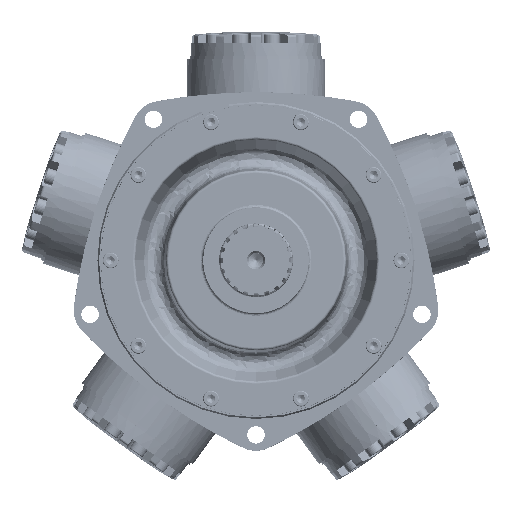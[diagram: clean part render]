
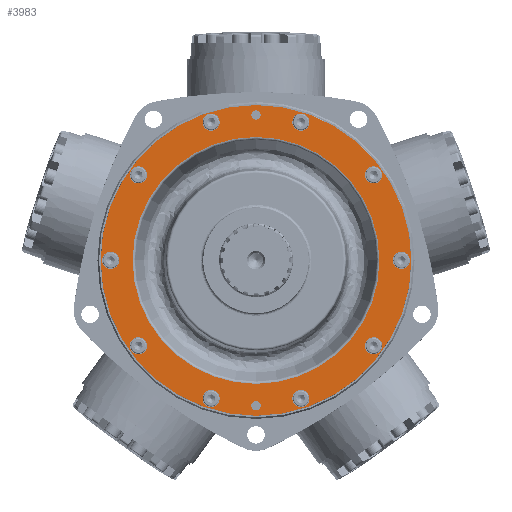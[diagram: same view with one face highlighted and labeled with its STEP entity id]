
A CAD part, top view. The second image highlights one B-rep face of the part: STEP entity #3983.
In plain terms, the highlighted planar face has unit normal (0, 0, 1).
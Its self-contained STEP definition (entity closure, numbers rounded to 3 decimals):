
#2635=CARTESIAN_POINT('',(5.664,174.625,69.152));
#2636=VERTEX_POINT('',#2635);
#2637=CARTESIAN_POINT('',(0.,174.625,69.152));
#2638=DIRECTION('',(0.0,0.0,-1.0));
#2639=DIRECTION('',(1.0,0.0,0.0));
#2640=AXIS2_PLACEMENT_3D('',#2637,#2638,#2639);
#2641=CIRCLE('',#2640,5.664);
#2642=EDGE_CURVE('',#2636,#2636,#2641,.T.);
#2684=CARTESIAN_POINT('',(5.664,-174.625,69.152));
#2685=VERTEX_POINT('',#2684);
#2686=CARTESIAN_POINT('',(0.,-174.625,69.152));
#2687=DIRECTION('',(0.0,0.0,-1.0));
#2688=DIRECTION('',(1.0,0.0,0.0));
#2689=AXIS2_PLACEMENT_3D('',#2686,#2687,#2688);
#2690=CIRCLE('',#2689,5.664);
#2691=EDGE_CURVE('',#2685,#2685,#2690,.T.);
#2742=CARTESIAN_POINT('',(57.151,-175.892,69.152));
#2743=VERTEX_POINT('',#2742);
#2744=CARTESIAN_POINT('',(53.962,-166.078,69.152));
#2745=DIRECTION('',(0.,0.,-1.));
#2746=DIRECTION('',(0.309,-0.951,0.));
#2747=AXIS2_PLACEMENT_3D('',#2744,#2745,#2746);
#2748=CIRCLE('',#2747,10.319);
#2749=EDGE_CURVE('',#2743,#2743,#2748,.T.);
#2811=CARTESIAN_POINT('',(-57.151,-175.892,69.152));
#2812=VERTEX_POINT('',#2811);
#2813=CARTESIAN_POINT('',(-53.962,-166.078,69.152));
#2814=DIRECTION('',(0.,0.,-1.));
#2815=DIRECTION('',(-0.309,-0.951,0.));
#2816=AXIS2_PLACEMENT_3D('',#2813,#2814,#2815);
#2817=CIRCLE('',#2816,10.319);
#2818=EDGE_CURVE('',#2812,#2812,#2817,.T.);
#2872=CARTESIAN_POINT('',(-149.623,-108.707,69.152));
#2873=VERTEX_POINT('',#2872);
#2874=CARTESIAN_POINT('',(-141.275,-102.642,69.152));
#2875=DIRECTION('',(0.,0.,-1.0));
#2876=DIRECTION('',(-0.809,-0.588,0.));
#2877=AXIS2_PLACEMENT_3D('',#2874,#2875,#2876);
#2878=CIRCLE('',#2877,10.319);
#2879=EDGE_CURVE('',#2873,#2873,#2878,.T.);
#2941=CARTESIAN_POINT('',(-184.944,0.,69.152));
#2942=VERTEX_POINT('',#2941);
#2943=CARTESIAN_POINT('',(-174.625,0.,69.152));
#2944=DIRECTION('',(0.0,0.0,-1.0));
#2945=DIRECTION('',(-1.0,0.0,0.0));
#2946=AXIS2_PLACEMENT_3D('',#2943,#2944,#2945);
#2947=CIRCLE('',#2946,10.319);
#2948=EDGE_CURVE('',#2942,#2942,#2947,.T.);
#3002=CARTESIAN_POINT('',(-149.623,108.707,69.152));
#3003=VERTEX_POINT('',#3002);
#3004=CARTESIAN_POINT('',(-141.275,102.642,69.152));
#3005=DIRECTION('',(0.,0.,-1.));
#3006=DIRECTION('',(-0.809,0.588,0.));
#3007=AXIS2_PLACEMENT_3D('',#3004,#3005,#3006);
#3008=CIRCLE('',#3007,10.319);
#3009=EDGE_CURVE('',#3003,#3003,#3008,.T.);
#3071=CARTESIAN_POINT('',(-57.151,175.892,69.152));
#3072=VERTEX_POINT('',#3071);
#3073=CARTESIAN_POINT('',(-53.962,166.078,69.152));
#3074=DIRECTION('',(0.,0.,-1.));
#3075=DIRECTION('',(-0.309,0.951,0.));
#3076=AXIS2_PLACEMENT_3D('',#3073,#3074,#3075);
#3077=CIRCLE('',#3076,10.319);
#3078=EDGE_CURVE('',#3072,#3072,#3077,.T.);
#3132=CARTESIAN_POINT('',(57.151,175.892,69.152));
#3133=VERTEX_POINT('',#3132);
#3134=CARTESIAN_POINT('',(53.962,166.078,69.152));
#3135=DIRECTION('',(0.,0.,-1.));
#3136=DIRECTION('',(0.309,0.951,0.));
#3137=AXIS2_PLACEMENT_3D('',#3134,#3135,#3136);
#3138=CIRCLE('',#3137,10.319);
#3139=EDGE_CURVE('',#3133,#3133,#3138,.T.);
#3201=CARTESIAN_POINT('',(149.623,108.707,69.152));
#3202=VERTEX_POINT('',#3201);
#3203=CARTESIAN_POINT('',(141.275,102.642,69.152));
#3204=DIRECTION('',(0.,0.,-1.));
#3205=DIRECTION('',(0.809,0.588,0.));
#3206=AXIS2_PLACEMENT_3D('',#3203,#3204,#3205);
#3207=CIRCLE('',#3206,10.319);
#3208=EDGE_CURVE('',#3202,#3202,#3207,.T.);
#3270=CARTESIAN_POINT('',(149.623,-108.707,69.152));
#3271=VERTEX_POINT('',#3270);
#3272=CARTESIAN_POINT('',(141.275,-102.642,69.152));
#3273=DIRECTION('',(0.,0.,-1.));
#3274=DIRECTION('',(0.809,-0.588,0.));
#3275=AXIS2_PLACEMENT_3D('',#3272,#3273,#3274);
#3276=CIRCLE('',#3275,10.319);
#3277=EDGE_CURVE('',#3271,#3271,#3276,.T.);
#3331=CARTESIAN_POINT('',(184.944,0.,69.152));
#3332=VERTEX_POINT('',#3331);
#3333=CARTESIAN_POINT('',(174.625,0.,69.152));
#3334=DIRECTION('',(0.0,0.0,-1.0));
#3335=DIRECTION('',(1.0,0.0,0.0));
#3336=AXIS2_PLACEMENT_3D('',#3333,#3334,#3335);
#3337=CIRCLE('',#3336,10.319);
#3338=EDGE_CURVE('',#3332,#3332,#3337,.T.);
#3615=CARTESIAN_POINT('',(0.,186.626,69.152));
#3616=VERTEX_POINT('',#3615);
#3617=CARTESIAN_POINT('',(0.,0.,69.152));
#3618=DIRECTION('',(0.0,0.0,1.0));
#3619=DIRECTION('',(0.0,-1.0,0.0));
#3620=AXIS2_PLACEMENT_3D('',#3617,#3618,#3619);
#3621=CIRCLE('',#3620,186.626);
#3622=EDGE_CURVE('',#3616,#3616,#3621,.T.);
#3913=CARTESIAN_POINT('',(0.,148.273,69.152));
#3914=VERTEX_POINT('',#3913);
#3915=CARTESIAN_POINT('',(0.,0.,69.152));
#3916=DIRECTION('',(0.0,0.0,1.0));
#3917=DIRECTION('',(0.0,-1.0,0.0));
#3918=AXIS2_PLACEMENT_3D('',#3915,#3916,#3917);
#3919=CIRCLE('',#3918,148.273);
#3920=EDGE_CURVE('',#3914,#3914,#3919,.T.);
#3936=CARTESIAN_POINT('',(0.,169.862,69.152));
#3937=DIRECTION('',(0.0,0.0,1.0));
#3938=DIRECTION('',(1.0,0.0,0.0));
#3939=AXIS2_PLACEMENT_3D('',#3936,#3937,#3938);
#3940=PLANE('',#3939);
#3941=ORIENTED_EDGE('',*,*,#3622,.T.);
#3942=EDGE_LOOP('',(#3941));
#3943=FACE_OUTER_BOUND('',#3942,.T.);
#3944=ORIENTED_EDGE('',*,*,#2642,.T.);
#3945=EDGE_LOOP('',(#3944));
#3946=FACE_BOUND('',#3945,.T.);
#3947=ORIENTED_EDGE('',*,*,#2691,.T.);
#3948=EDGE_LOOP('',(#3947));
#3949=FACE_BOUND('',#3948,.T.);
#3950=ORIENTED_EDGE('',*,*,#2749,.T.);
#3951=EDGE_LOOP('',(#3950));
#3952=FACE_BOUND('',#3951,.T.);
#3953=ORIENTED_EDGE('',*,*,#2818,.T.);
#3954=EDGE_LOOP('',(#3953));
#3955=FACE_BOUND('',#3954,.T.);
#3956=ORIENTED_EDGE('',*,*,#2879,.T.);
#3957=EDGE_LOOP('',(#3956));
#3958=FACE_BOUND('',#3957,.T.);
#3959=ORIENTED_EDGE('',*,*,#2948,.T.);
#3960=EDGE_LOOP('',(#3959));
#3961=FACE_BOUND('',#3960,.T.);
#3962=ORIENTED_EDGE('',*,*,#3009,.T.);
#3963=EDGE_LOOP('',(#3962));
#3964=FACE_BOUND('',#3963,.T.);
#3965=ORIENTED_EDGE('',*,*,#3078,.T.);
#3966=EDGE_LOOP('',(#3965));
#3967=FACE_BOUND('',#3966,.T.);
#3968=ORIENTED_EDGE('',*,*,#3139,.T.);
#3969=EDGE_LOOP('',(#3968));
#3970=FACE_BOUND('',#3969,.T.);
#3971=ORIENTED_EDGE('',*,*,#3208,.T.);
#3972=EDGE_LOOP('',(#3971));
#3973=FACE_BOUND('',#3972,.T.);
#3974=ORIENTED_EDGE('',*,*,#3277,.T.);
#3975=EDGE_LOOP('',(#3974));
#3976=FACE_BOUND('',#3975,.T.);
#3977=ORIENTED_EDGE('',*,*,#3338,.T.);
#3978=EDGE_LOOP('',(#3977));
#3979=FACE_BOUND('',#3978,.T.);
#3980=ORIENTED_EDGE('',*,*,#3920,.F.);
#3981=EDGE_LOOP('',(#3980));
#3982=FACE_BOUND('',#3981,.T.);
#3983=ADVANCED_FACE('',(#3943,#3946,#3949,#3952,#3955,#3958,#3961,#3964,#3967,#3970,#3973,#3976,#3979,#3982),#3940,.T.);
